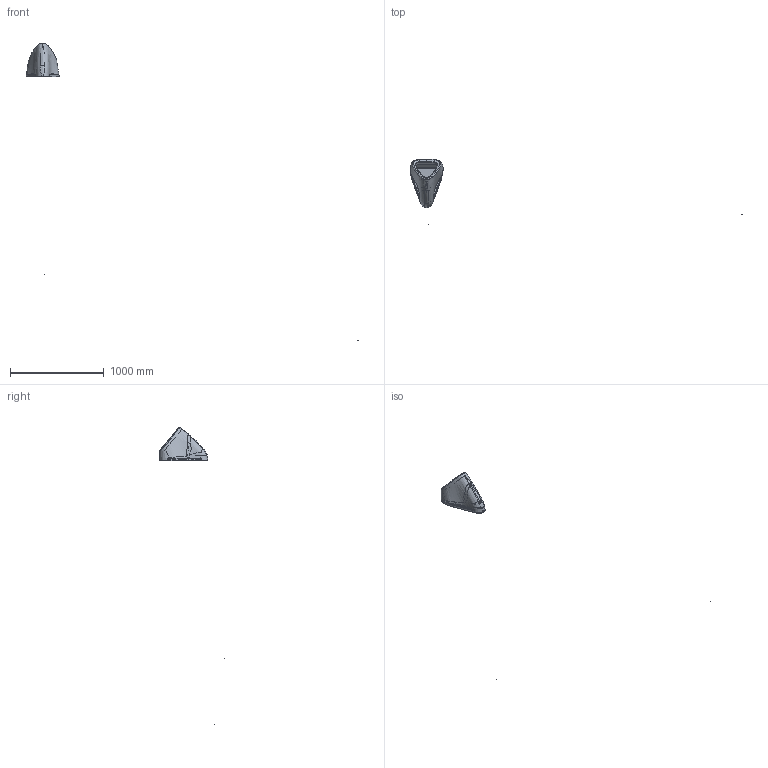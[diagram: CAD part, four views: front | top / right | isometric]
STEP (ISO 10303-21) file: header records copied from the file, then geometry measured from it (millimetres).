
FILE_DESCRIPTION (( 'STEP AP203' ), '1' );
FILE_NAME ('TP630.STEP', '2022-04-25T07:32:09', ( '' ), ( '' ), 'SwSTEP 2.0', 'SolidWorks 2021', '' );
FILE_SCHEMA (( 'CONFIG_CONTROL_DESIGN' ));
Products named in the file (1): TP630
Bounding box: 3538.67 x 696.2 x 3169.24 mm (x, y, z)
Volume: 8280364.3 mm3; surface area: 914970.1 mm2
Topology: 12 solids, 13 shells, 306 faces, 768 edges, 493 vertices
Faces by surface type: bspline 167, plane 72, cylinder 57, cone 4, torus 4, sphere 2
Entity records: 180454 total; most frequent: CARTESIAN_POINT 174521, ORIENTED_EDGE 1522, EDGE_CURVE 761, DIRECTION 700, VERTEX_POINT 495, B_SPLINE_CURVE_WITH_KNOTS 447, EDGE_LOOP 324, ADVANCED_FACE 306
